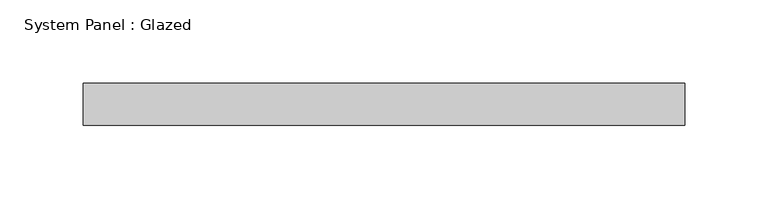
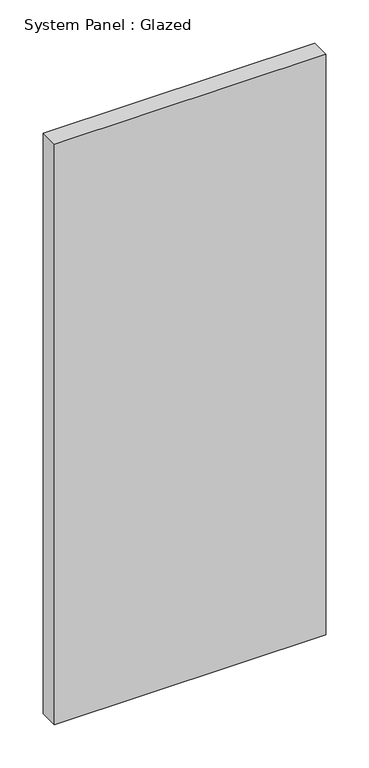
"""IFC4 building model written with IfcOpenShell, lengths in millimetres: plate geometry, System Panel : Glazed."""

from ifc_helpers import new_model, si_unit, origin, origin_with_axes, place, context, project, spatial, polyline, outline, extrude, source, transform, mapped, element, save


def system_panel_glazed_cc98a0ec(model_context):
    return source(origin(), model_context, "Body", "SweptSolid", [
        extrude(outline(polyline([(180.975, 19.05), (-180.975, 19.05), (-180.975, 44.45), (180.975, 44.45), (180.975, 19.05)])), origin_with_axes(), (0.0, 0.0, 1.0), 819.15),
    ])


if __name__ == "__main__":
    model = new_model("IFC4")
    model_context = context("Model", 3, world=origin())
    ifc_project = project(units=[si_unit("LENGTHUNIT", "METRE", prefix="MILLI")], contexts=[model_context])
    site = spatial("IfcSite", under=ifc_project)
    building = spatial("IfcBuilding", under=site)
    placement = place(None, origin())
    system_panel_glazed_shape = system_panel_glazed_cc98a0ec(model_context)
    element("IfcPlate", 1, ObjectType="System Panel : Glazed", at=placement, inside=building, context=model_context, shape_type="MappedRepresentation", body=[
        mapped(system_panel_glazed_shape, transform((0.0, 0.0, 0.0), x_axis=(1.0, 0.0, 0.0), y_axis=(0.0, 1.0, 0.0), z_axis=(0.0, 0.0, 1.0))),
    ])
    save(model, "model.ifc")
